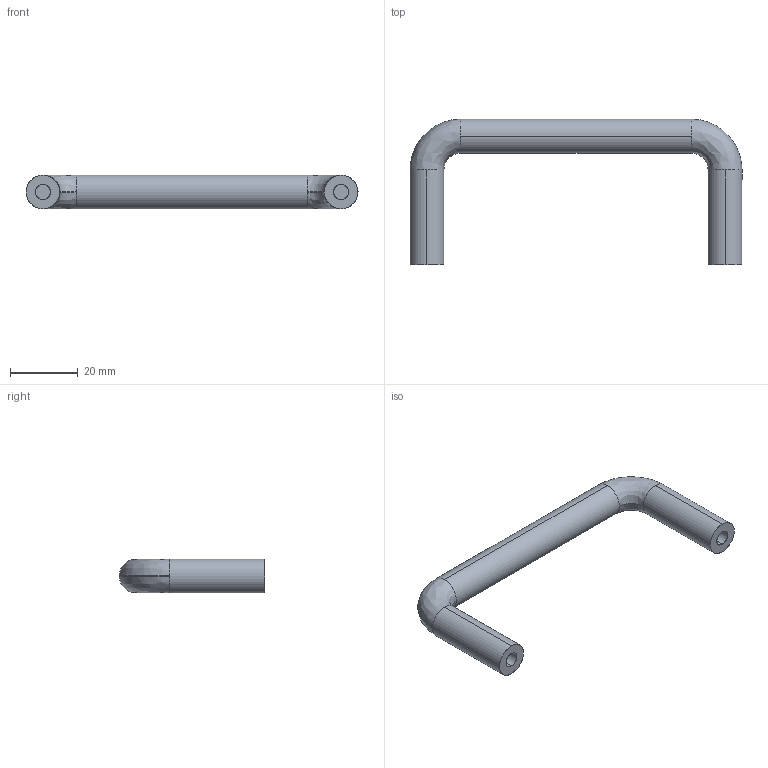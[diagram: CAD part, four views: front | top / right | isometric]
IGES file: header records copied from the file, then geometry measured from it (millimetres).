
Start section: SolidWorks IGES file using analytic representation for surfaces
Global section: file name: D:\由鑫國際內部資料\內部資料\3D圖檔\MS-742系列\742-88.IGS; native system: SolidWorks 2008; preprocessor: SolidWorks 2008; author: Administrator; date: 091201.131828; units: millimetre
Bounding box: 98 x 43 x 10 mm (x, y, z)
Surface area: 5379.7 mm2 (no closed solid volume)
Topology: 0 solids, 0 shells, 18 faces, 264 edges, 264 vertices
Faces by surface type: revolution 10, bspline 8
